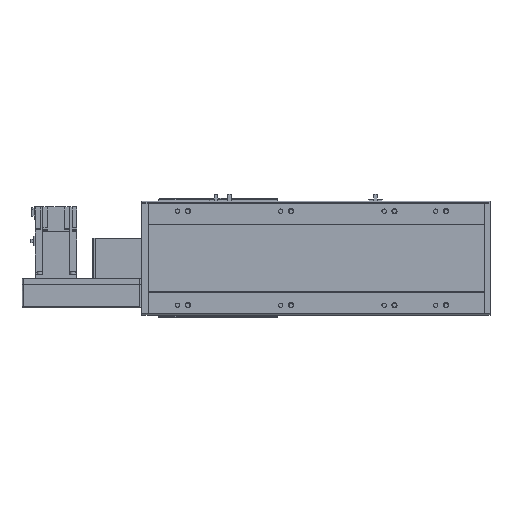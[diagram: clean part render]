
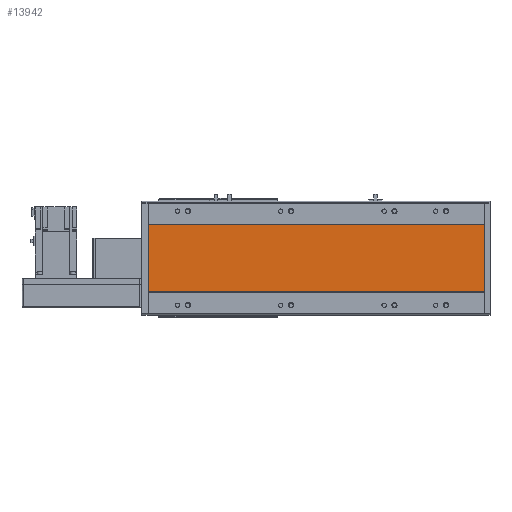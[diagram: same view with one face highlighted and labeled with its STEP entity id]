
A CAD part, front view. The second image highlights one B-rep face of the part: STEP entity #13942.
In plain terms, the highlighted planar face has unit normal (0, -1, 0).
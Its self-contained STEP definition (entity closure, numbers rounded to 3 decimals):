
#3097=ORIENTED_EDGE('',*,*,#6246,.T.);
#3098=ORIENTED_EDGE('',*,*,#6247,.F.);
#3099=ORIENTED_EDGE('',*,*,#6248,.F.);
#3100=ORIENTED_EDGE('',*,*,#6244,.T.);
#6244=EDGE_CURVE('',#7941,#7940,#9194,.T.);
#6246=EDGE_CURVE('',#7940,#7942,#9195,.T.);
#6247=EDGE_CURVE('',#7943,#7942,#9196,.T.);
#6248=EDGE_CURVE('',#7941,#7943,#9197,.T.);
#7940=VERTEX_POINT('',#22927);
#7941=VERTEX_POINT('',#22929);
#7942=VERTEX_POINT('',#22933);
#7943=VERTEX_POINT('',#22935);
#9194=LINE('',#22928,#10531);
#9195=LINE('',#22932,#10532);
#9196=LINE('',#22934,#10533);
#9197=LINE('',#22936,#10534);
#10531=VECTOR('',#18371,1000.);
#10532=VECTOR('',#18376,1000.);
#10533=VECTOR('',#18377,1000.);
#10534=VECTOR('',#18378,1000.);
#11474=EDGE_LOOP('',(#3097,#3098,#3099,#3100));
#12499=FACE_BOUND('',#11474,.T.);
#13297=PLANE('',#15202);
#13942=ADVANCED_FACE('',(#12499),#13297,.F.);
#15202=AXIS2_PLACEMENT_3D('',#22931,#18374,#18375);
#18371=DIRECTION('',(-1.,0.,0.));
#18374=DIRECTION('',(0.,1.,0.));
#18375=DIRECTION('',(0.,0.,1.));
#18376=DIRECTION('',(0.,0.,-1.));
#18377=DIRECTION('',(-1.,0.,0.));
#18378=DIRECTION('',(0.,0.,-1.));
#22927=CARTESIAN_POINT('',(12.,1.,64.294));
#22928=CARTESIAN_POINT('',(664.,1.,64.294));
#22929=CARTESIAN_POINT('',(664.,1.,64.294));
#22931=CARTESIAN_POINT('',(664.,1.,64.294));
#22932=CARTESIAN_POINT('',(12.,1.,64.294));
#22933=CARTESIAN_POINT('',(12.,1.,-64.294));
#22934=CARTESIAN_POINT('',(664.,1.,-64.294));
#22935=CARTESIAN_POINT('',(664.,1.,-64.294));
#22936=CARTESIAN_POINT('',(664.,1.,64.294));
